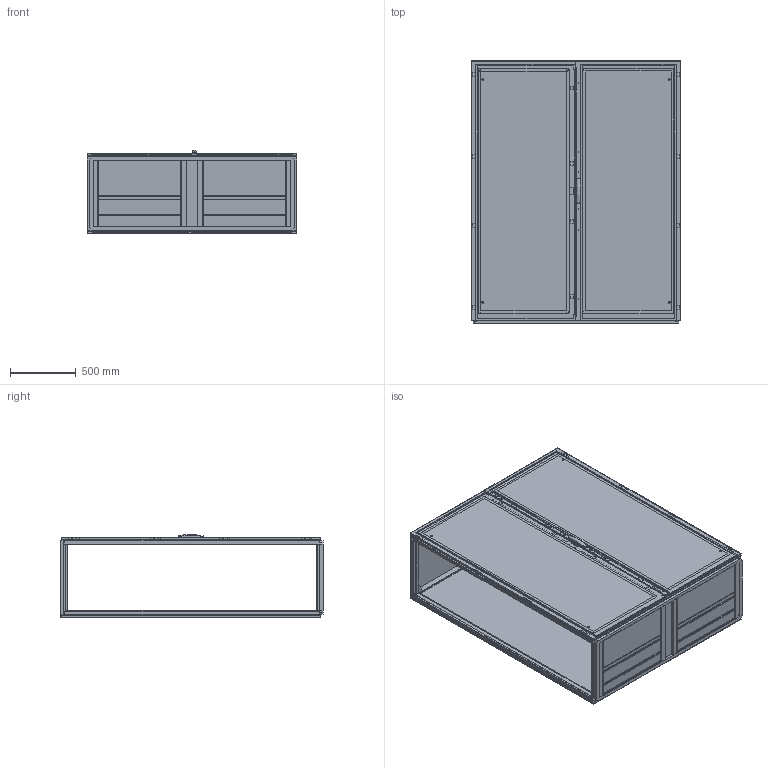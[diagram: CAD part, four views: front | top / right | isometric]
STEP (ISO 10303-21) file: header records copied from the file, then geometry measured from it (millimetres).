
FILE_DESCRIPTION(/* description */ ('STEP AP203'),/* implementation_level */ '2;1');
FILE_NAME(/* name */ 'MCD20166R5(0)',/* time_stamp */ '2024-02-27T15:12:50+01:00',/* author */ ('License CC BY-ND 4.0'),/* organization */ ('CADENAS'),/* preprocessor_version */ 'ST-DEVELOPER v19.3',/* originating_system */ 'PARTsolutions',/* authorisation */ ' ');
FILE_SCHEMA (('CONFIG_CONTROL_DESIGN'));
Length unit declared in the file: millimetre
Products named in the file (29): MCD20166R5(0); MCD20166R5_Frame; CRPK16(0)_Rear Panel Mounting Kit; CRP2016R5(0)_Rear Panel Left; CRP2016R5(0)_Rear Panel Right; CRPK16(0)_Rear Panel Bracket; DNMK02(0)_Hinge Right; DN2008RR5(0)_Right door; LSSDXXXX(0)_Lock; LSSD2000(0)_Espagnolette Top; LSSD2000(0)_Espagnolette Bottom; DNMK02(0)_Hinge Left; DN2008LR5(0)_Left door; LSEL2000(0)_Left Door Espagnolette; DNMK01(0)_Rod catches; CCR166R5(0)_Roof plate; LSSD2000(0)_Lock Catch; LSELXX16X(0)_Left Door Espagnolette; MPA06(0)_Mounting Plate Brackets 1; MP2016(0)_P1; MPA06(0)_Mounting Plate Brackets 2; MPA06(0)_Mounting Plate Brackets 3; MPA06(0)_Mounting Plate Brackets 4; Bottom Plate Profile_1600x600(0); MCD16XX06(0)_Mounting Profile; MCD16XX06(0)_ Middle Top Profile; CBPW1600D300(0)_Bottom Plate 3; CBP160(0)_Bottom Plate 1; CBP160(0)_Bottom Plate 2
Assembly tree (54 placements, depth 2):
  MCD20166R5(0)
    MCD20166R5_Frame
    CRPK16(0)_Rear Panel Mounting Kit  x8
    CRP2016R5(0)_Rear Panel Left
    CRP2016R5(0)_Rear Panel Right
    CRPK16(0)_Rear Panel Bracket  x2
    DNMK02(0)_Hinge Right  x4
    DN2008RR5(0)_Right door
    LSSDXXXX(0)_Lock
    LSSD2000(0)_Espagnolette Top
    LSSD2000(0)_Espagnolette Bottom
    DNMK02(0)_Hinge Left  x4
    DN2008LR5(0)_Left door
    LSEL2000(0)_Left Door Espagnolette
    DNMK01(0)_Rod catches  x4
    CCR166R5(0)_Roof plate
    LSSD2000(0)_Lock Catch  x2
    LSELXX16X(0)_Left Door Espagnolette  x2
    MPA06(0)_Mounting Plate Brackets 1  x3
    MP2016(0)_P1
    MPA06(0)_Mounting Plate Brackets 2  x3
    MPA06(0)_Mounting Plate Brackets 3
    MPA06(0)_Mounting Plate Brackets 4
    Bottom Plate Profile_1600x600(0)
    MCD16XX06(0)_Mounting Profile
    MCD16XX06(0)_ Middle Top Profile
    CBPW1600D300(0)_Bottom Plate 3  x2
    CBP160(0)_Bottom Plate 1  x2
    CBP160(0)_Bottom Plate 2  x2
Bounding box: 1599 x 2003.5 x 634.91 mm (x, y, z)
Volume: 50729957.9 mm3; surface area: 28503842.5 mm2
Topology: 54 solids, 54 shells, 2386 faces, 6446 edges, 4257 vertices
Faces by surface type: plane 2111, cylinder 208, cone 64, sphere 2, torus 1
Full cylindrical faces by diameter (mm): 2.55 x2, 5 x26, 5.2 x2, 5.8 x2, 6 x6, 6.5 x2, 6.7 x4, 7 x6, 7.4 x4, 8 x21, 9 x3, 10 x12, 12.5 x1, 13 x3, 14 x7, 14.12 x1, 15 x4
Entity records: 53923 total; most frequent: CARTESIAN_POINT 9232, ORIENTED_EDGE 8788, DIRECTION 8269, EDGE_CURVE 4394, LINE 3955, VECTOR 3955, VERTEX_POINT 2970, AXIS2_PLACEMENT_3D 2157
